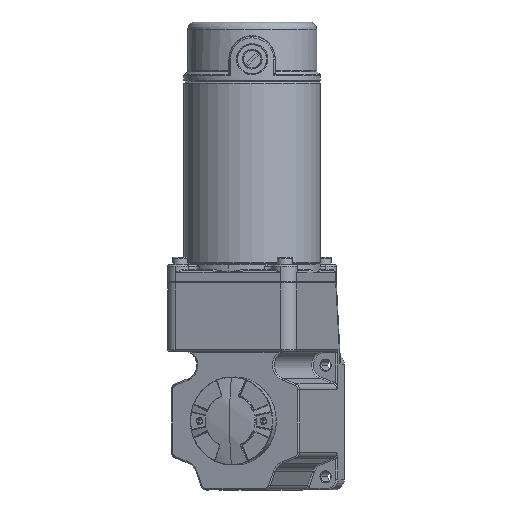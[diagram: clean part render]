
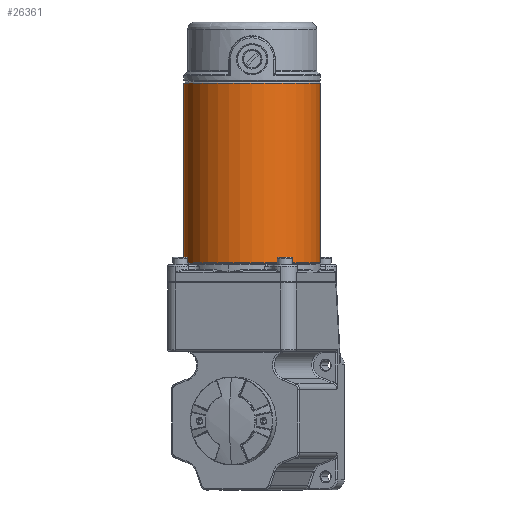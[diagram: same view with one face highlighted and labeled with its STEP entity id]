
A CAD part, left-side view. The second image highlights one B-rep face of the part: STEP entity #26361.
In plain terms, the highlighted cylindrical face has radius 45 mm (diameter 90 mm), a partial arc.
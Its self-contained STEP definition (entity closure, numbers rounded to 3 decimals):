
#3178 = ORIENTED_EDGE ( 'NONE', *, *, #3756, .T. ) ;
#3756 = EDGE_CURVE ( 'NONE', #6001, #59494, #83486, .T. ) ;
#5222 = CARTESIAN_POINT ( 'NONE',  ( -7.759, 119.172, -45. ) ) ;
#6001 = VERTEX_POINT ( 'NONE', #45819 ) ;
#9726 = CARTESIAN_POINT ( 'NONE',  ( -7.759, 0.828, 0. ) ) ;
#18906 = AXIS2_PLACEMENT_3D ( 'NONE', #88565, #24275, #48232 ) ;
#20581 = DIRECTION ( 'NONE',  ( 0., 1., 0. ) ) ;
#21568 = ORIENTED_EDGE ( 'NONE', *, *, #68798, .T. ) ;
#22738 = AXIS2_PLACEMENT_3D ( 'NONE', #99675, #44515, #75797 ) ;
#22890 = CARTESIAN_POINT ( 'NONE',  ( -7.759, 0., -45. ) ) ;
#23171 = VERTEX_POINT ( 'NONE', #67877 ) ;
#24275 = DIRECTION ( 'NONE',  ( 0., -1., 0. ) ) ;
#26361 = ADVANCED_FACE ( 'NONE', ( #83753 ), #52441, .T. ) ;
#26464 = LINE ( 'NONE', #81720, #41595 ) ;
#41595 = VECTOR ( 'NONE', #74292, 1000. ) ;
#44515 = DIRECTION ( 'NONE',  ( 0., 1., 0. ) ) ;
#45819 = CARTESIAN_POINT ( 'NONE',  ( -7.759, 0.828, -45. ) ) ;
#46472 = CARTESIAN_POINT ( 'NONE',  ( -7.759, 119.172, 45. ) ) ;
#47257 = AXIS2_PLACEMENT_3D ( 'NONE', #9726, #83521, #91999 ) ;
#48232 = DIRECTION ( 'NONE',  ( 0., 0., 1. ) ) ;
#52441 = CYLINDRICAL_SURFACE ( 'NONE', #22738, 45. ) ;
#57573 = DIRECTION ( 'NONE',  ( 0., 1., 0. ) ) ;
#59494 = VERTEX_POINT ( 'NONE', #101715 ) ;
#62559 = CIRCLE ( 'NONE', #47257, 45. ) ;
#62873 = ORIENTED_EDGE ( 'NONE', *, *, #90453, .F. ) ;
#64720 = CIRCLE ( 'NONE', #18906, 45. ) ;
#67877 = CARTESIAN_POINT ( 'NONE',  ( -7.759, 0.828, 45. ) ) ;
#68798 = EDGE_CURVE ( 'NONE', #99003, #79607, #64720, .T. ) ;
#73859 = ORIENTED_EDGE ( 'NONE', *, *, #91689, .T. ) ;
#74292 = DIRECTION ( 'NONE',  ( 0., 1., 0. ) ) ;
#75797 = DIRECTION ( 'NONE',  ( 0., 0., 1. ) ) ;
#79607 = VERTEX_POINT ( 'NONE', #5222 ) ;
#81720 = CARTESIAN_POINT ( 'NONE',  ( -7.759, 0., 45. ) ) ;
#81965 = CARTESIAN_POINT ( 'NONE',  ( -7.759, 0.828, 0. ) ) ;
#83486 = CIRCLE ( 'NONE', #98703, 45. ) ;
#83521 = DIRECTION ( 'NONE',  ( 0., 1., 0. ) ) ;
#83753 = FACE_OUTER_BOUND ( 'NONE', #104536, .T. ) ;
#87806 = ORIENTED_EDGE ( 'NONE', *, *, #99293, .T. ) ;
#88565 = CARTESIAN_POINT ( 'NONE',  ( -7.759, 119.172, 0. ) ) ;
#89939 = DIRECTION ( 'NONE',  ( 0., 0., 1. ) ) ;
#90453 = EDGE_CURVE ( 'NONE', #6001, #79607, #103590, .T. ) ;
#91689 = EDGE_CURVE ( 'NONE', #23171, #99003, #26464, .T. ) ;
#91999 = DIRECTION ( 'NONE',  ( 0., 0., 1. ) ) ;
#98703 = AXIS2_PLACEMENT_3D ( 'NONE', #81965, #57573, #89939 ) ;
#99003 = VERTEX_POINT ( 'NONE', #46472 ) ;
#99293 = EDGE_CURVE ( 'NONE', #59494, #23171, #62559, .T. ) ;
#99675 = CARTESIAN_POINT ( 'NONE',  ( -7.759, 0., 0. ) ) ;
#101715 = CARTESIAN_POINT ( 'NONE',  ( -52.759, 0.828, 0. ) ) ;
#103590 = LINE ( 'NONE', #22890, #104119 ) ;
#104119 = VECTOR ( 'NONE', #20581, 1000. ) ;
#104536 = EDGE_LOOP ( 'NONE', ( #62873, #3178, #87806, #73859, #21568 ) ) ;
